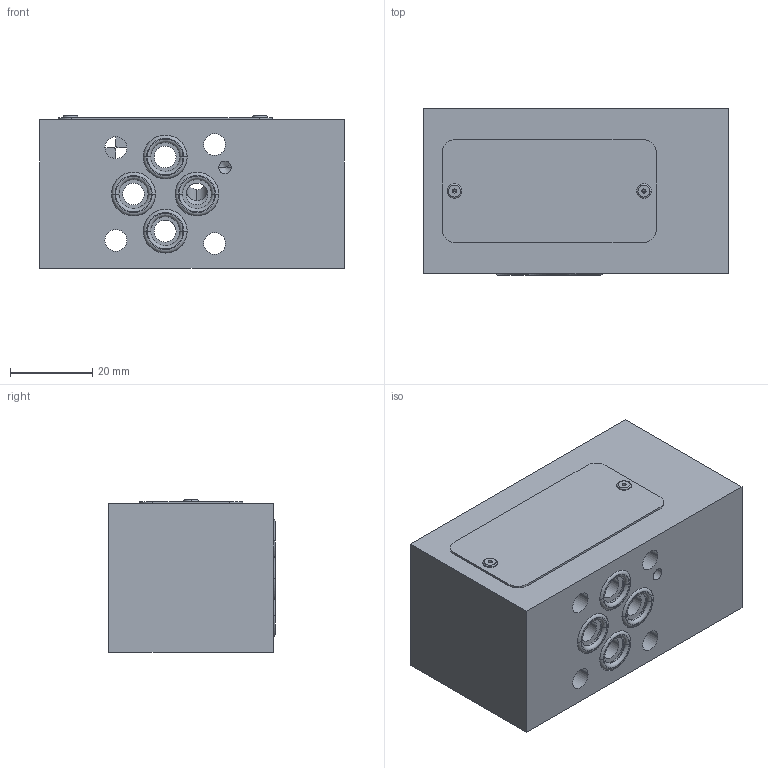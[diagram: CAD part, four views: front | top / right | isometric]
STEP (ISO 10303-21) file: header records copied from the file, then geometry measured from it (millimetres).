
FILE_DESCRIPTION((''),'2;1');
FILE_NAME('29230100_ASM','2023-10-12T',('l.soukupova'),(''),'PRO/ENGINEER BY PARAMETRIC TECHNOLOGY CORPORATION, 2015440','PRO/ENGINEER BY PARAMETRIC TECHNOLOGY CORPORATION, 2015440','');
FILE_SCHEMA(('AUTOMOTIVE_DESIGN { 1 0 10303 214 1 1 1 1 }'));
Length unit declared in the file: millimetre
Products named in the file (8): 29230001; RD_LABEL_25X52_159703; AF_1932_16485; ORIA00750_292673_AF4; ORIA00750_292673_AF5; ORIA00750_292673_AF6; ORIA00750_292673_AF7; 29230100_ASM
Assembly tree (8 placements, depth 2):
  29230100_ASM
    29230001
    RD_LABEL_25X52_159703
    AF_1932_16485  x2
    ORIA00750_292673_AF4
    ORIA00750_292673_AF5
    ORIA00750_292673_AF6
    ORIA00750_292673_AF7
Bounding box: 74 x 40.4 x 37 mm (x, y, z)
Volume: 92301.5 mm3; surface area: 25412.8 mm2
Topology: 8 solids, 11 shells, 176 faces, 543 edges, 456 vertices
Faces by surface type: cylinder 84, torus 36, plane 34, cone 22
Entity records: 8791 total; most frequent: CARTESIAN_POINT 1511, DIRECTION 1174, ORIENTED_EDGE 746, AXIS2_PLACEMENT_3D 472, PRESENTATION_STYLE_ASSIGNMENT 416, EDGE_CURVE 379, STYLED_ITEM 346, CURVE_STYLE 312
